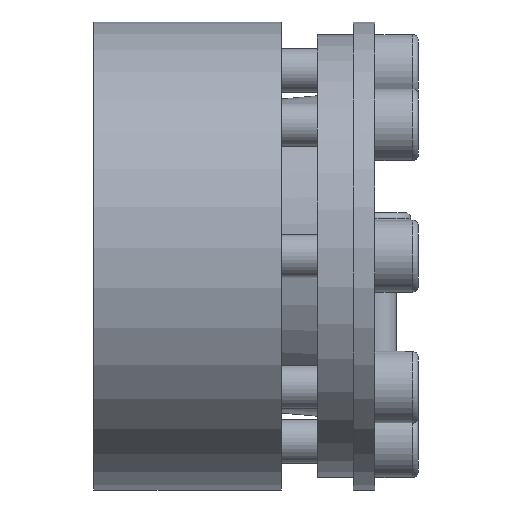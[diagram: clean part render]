
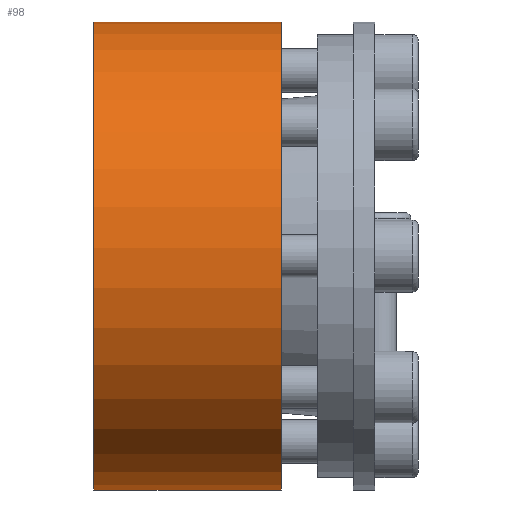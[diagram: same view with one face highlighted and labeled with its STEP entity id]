
A CAD part, left-side view. The second image highlights one B-rep face of the part: STEP entity #98.
In plain terms, the highlighted cylindrical face has radius 32.5 mm (diameter 65 mm), a partial arc.
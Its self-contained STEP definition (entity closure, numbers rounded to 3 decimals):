
#98 = ADVANCED_FACE( '', ( #225 ), #226, .T. );
#225 = FACE_OUTER_BOUND( '', #393, .T. );
#226 = CYLINDRICAL_SURFACE( '', #394, 32.5 );
#393 = EDGE_LOOP( '', ( #636, #637, #638, #639 ) );
#394 = AXIS2_PLACEMENT_3D( '', #640, #641, #642 );
#636 = ORIENTED_EDGE( '', *, *, #899, .F. );
#637 = ORIENTED_EDGE( '', *, *, #872, .T. );
#638 = ORIENTED_EDGE( '', *, *, #902, .T. );
#639 = ORIENTED_EDGE( '', *, *, #903, .T. );
#640 = CARTESIAN_POINT( '', ( 0., -60., 0. ) );
#641 = DIRECTION( '', ( 0., 1., 0. ) );
#642 = DIRECTION( '', ( 0., 0., -1. ) );
#872 = EDGE_CURVE( '', #1057, #1055, #1058, .F. );
#899 = EDGE_CURVE( '', #1057, #1102, #1103, .T. );
#902 = EDGE_CURVE( '', #1055, #1106, #1107, .T. );
#903 = EDGE_CURVE( '', #1106, #1102, #1108, .T. );
#1055 = VERTEX_POINT( '', #1365 );
#1057 = VERTEX_POINT( '', #1368 );
#1058 = LINE( '', #1369, #1370 );
#1102 = VERTEX_POINT( '', #1423 );
#1103 = CIRCLE( '', #1424, 32.5 );
#1106 = VERTEX_POINT( '', #1428 );
#1107 = CIRCLE( '', #1429, 32.5 );
#1108 = LINE( '', #1430, #1431 );
#1365 = CARTESIAN_POINT( '', ( 11.834, 39., 30.269 ) );
#1368 = CARTESIAN_POINT( '', ( 11.834, 13., 30.269 ) );
#1369 = CARTESIAN_POINT( '', ( 11.834, -60., 30.269 ) );
#1370 = VECTOR( '', #1580, 1000. );
#1423 = CARTESIAN_POINT( '', ( 13.035, 13., 29.771 ) );
#1424 = AXIS2_PLACEMENT_3D( '', #1626, #1627, #1628 );
#1428 = CARTESIAN_POINT( '', ( 13.035, 39., 29.771 ) );
#1429 = AXIS2_PLACEMENT_3D( '', #1630, #1631, #1632 );
#1430 = CARTESIAN_POINT( '', ( 13.035, -60., 29.771 ) );
#1431 = VECTOR( '', #1633, 1000. );
#1580 = DIRECTION( '', ( 0., -1., 0. ) );
#1626 = CARTESIAN_POINT( '', ( 0., 13., 0. ) );
#1627 = DIRECTION( '', ( 0., -1., 0. ) );
#1628 = DIRECTION( '', ( 0., 0., -1. ) );
#1630 = CARTESIAN_POINT( '', ( 0., 39., 0. ) );
#1631 = DIRECTION( '', ( 0., -1., 0. ) );
#1632 = DIRECTION( '', ( 0., 0., -1. ) );
#1633 = DIRECTION( '', ( 0., -1., 0. ) );
